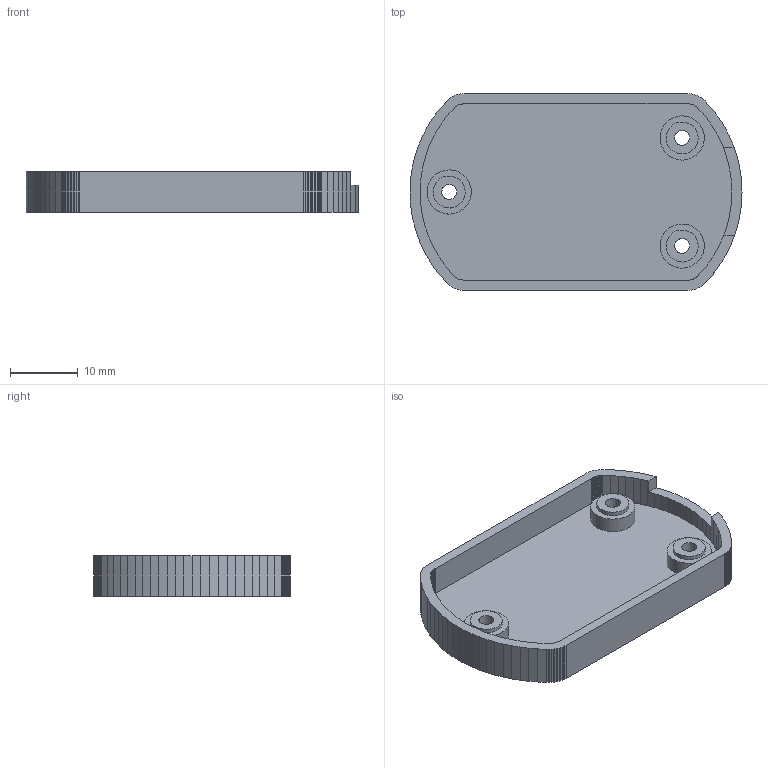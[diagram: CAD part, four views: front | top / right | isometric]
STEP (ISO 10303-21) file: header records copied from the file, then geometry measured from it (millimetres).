
FILE_DESCRIPTION(('Designed by EasyEDA Pro'),'2;1');
FILE_NAME('Open CASCADE Shape Model','2023-11-28T11:44:40',('Author'),( 'Open CASCADE'),'Open CASCADE STEP processor 7.6','Open CASCADE 7.6' ,'Unknown');
FILE_SCHEMA(('AUTOMOTIVE_DESIGN { 1 0 10303 214 1 1 1 1 }'));
Length unit declared in the file: millimetre
Products named in the file (1): Open CASCADE STEP translator 7.6 2
Bounding box: 49.17 x 29.11 x 6 mm (x, y, z)
Volume: 2967.5 mm3; surface area: 4256.8 mm2
Topology: 1 solids, 1 shells, 251 faces, 718 edges, 484 vertices
Faces by surface type: bspline 251
Entity records: 15734 total; most frequent: CARTESIAN_POINT 6385, B_SPLINE_CURVE_WITH_KNOTS 2070, ORIENTED_EDGE 1436, PCURVE 1436, DEFINITIONAL_REPRESENTATION 1436, EDGE_CURVE 718, SURFACE_CURVE 706, VERTEX_POINT 484
